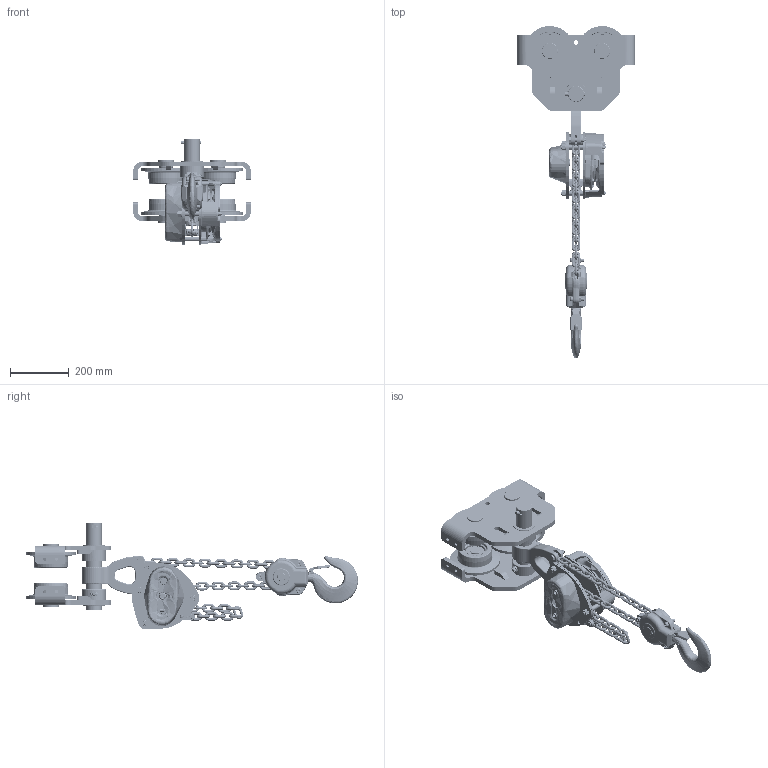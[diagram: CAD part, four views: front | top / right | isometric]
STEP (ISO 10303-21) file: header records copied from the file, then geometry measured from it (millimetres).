
FILE_DESCRIPTION (( 'STEP AP214' ), '1' );
FILE_NAME ('CB050 & PT050 LUG MTD.STEP', '2026-08-18T14:40:24', ( '' ), ( '' ), 'SwSTEP 2.0', 'SolidWorks 2026', '' );
FILE_SCHEMA (( 'AUTOMOTIVE_DESIGN' ));
Length unit declared in the file: millimetre
Products named in the file (60): T7GA0509115; C3BA025-91561; C3BA025-91012; C2BA050-90723_C2BA050-90723; M3176025; T3GA0509102; M3004050; 6307Z Bearing; C1FA030-90712; C3BA050-90611; MS104050; M3171025; M2049020_JIS B 1170 Small hexagon slotted nut Class 1 Low type Medium M10 --N; C2BA200-90741_C2BA200-90741; 9009423_9009423; LCC3025; C3BA050-90012; M3B102025; M6SE050S9164; split pin_ks; CB050 - Susp. Configs_Lug; 9012713_9012713; C3BA005-91731; T5GA0505112; M3021A050; PTS2050_5" FLANGE; 9009412_9009412; 9012711_9012711; E2D853125; M3041075; M3B101025; T5GA0509112; M3163025; M3103025; 9093424_9093424; 9047135_9047135; CB050 Chain; C3BA025-91201; CB050_FOR SHB; C3BA050-90512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
Assembly tree (146 placements, depth 6):
  CB050 & PT050 LUG MTD
    PTS2050_5" FLANGE
      T5GA0505112  x2
        T5GA0509112
        T5GA0509113
        M6SE050S9103
      T3P1102050  x4
        T3GA0509102
        J1SR000-00080_J1SR000-00080
        6307Z Bearing
      MS104050  x4
      9047135_9047135  x4
      T7GA0509115
      M6SE050S9164
      M6SE050S9161
      9009423_9009423  x2
      J1NL00210120
    CB050 - Susp. Configs_Lug
      CB050_FOR SHB
        M3171025
          C3BA025-91711
          C3BA005-91731  x2
        M3103025
          C3BA025-91031
          C3BA025-91201  x2
        M3B101025
          C3BA025-61012
            C3BA025-91012
            C3BA025-91722
          C3BA025-91042  x3
          C3BA025-91561
        M3B102025
          C3BA025-91022
          C3BA025-91201  x2
        9012713_9012713  x3
        9093433_9093433  x3
        9012711_9012711  x3
        9093424_9093424  x3
        M3B115025
      M3021A050
        C3BA050-90012
        C3BA050-90312  x2
        C3BA050-90531
        J1PS11-060012_JIS B 2808 6x12 A W
        9091296_9091296  x3
        C2BA200-90741_C2BA200-90741  x3
        C3BA050-90512
        C3BA050-90611  x2
        C1FA030-90712
        E2D853125
        C2BA050-90723_C2BA050-90723
      M3163025
      M3176025
      M3177025
      split pin_ks
      CB050 Chain
        LCC3025  x56
      M3004050
    M3041075
    M2049020_JIS B 1170 Small hexagon slotted nut Class 1 Low type Medium M10 --N
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Bounding box: 400 x 1127.84 x 360.6 mm (x, y, z)
Volume: 8860394.6 mm3; surface area: 2149658.3 mm2
Topology: 142 solids, 158 shells, 7283 faces, 18096 edges, 11267 vertices
Faces by surface type: plane 2349, cylinder 1977, bspline 1143, torus 955, cone 827, sphere 32
Entity records: 186300 total; most frequent: CARTESIAN_POINT 86355, ORIENTED_EDGE 20924, DIRECTION 18668, EDGE_CURVE 10464, AXIS2_PLACEMENT_3D 7853, VERTEX_POINT 6523, EDGE_LOOP 4483, CIRCLE 4374
